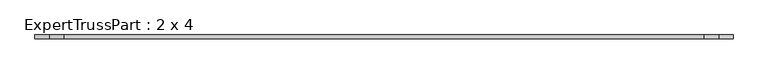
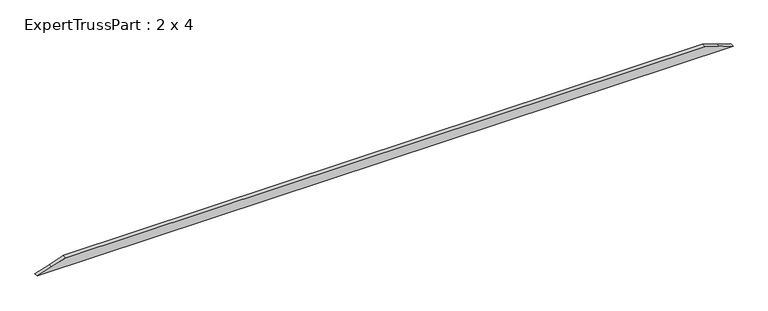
"""IFC4 building model written with IfcOpenShell, lengths in millimetres: beam geometry, ExpertTrussPart : 2 x 4."""

from ifc_helpers import new_model, si_unit, frame, origin, place, context, project, spatial, polyline, outline, extrude, source, transform, mapped, element, save


def experttrusspart_2_x_4_5d1fd198(model_context):
    return source(origin(), model_context, "Body", "SweptSolid", [
        extrude(outline(polyline([(88.9, -3050.0718577), (44.45, -3186.2590918), (0.0, -3322.4463258), (0.0, 3322.4463258), (44.45, 3186.2590918), (88.9, 3050.0718577), (88.9, -3050.0718577)])), frame((0.0, -19.05, 0.0), z_axis=(0.0, 1.0, 0.0), x_axis=(0.0, 0.0, 1.0)), (0.0, 0.0, 1.0), 38.1),
    ])


if __name__ == "__main__":
    model = new_model("IFC4")
    model_context = context("Model", 3, world=origin())
    ifc_project = project(units=[si_unit("LENGTHUNIT", "METRE", prefix="MILLI")], contexts=[model_context])
    site = spatial("IfcSite", under=ifc_project)
    building = spatial("IfcBuilding", under=site)
    placement = place(None, origin())
    experttrusspart_2_x_4_shape = experttrusspart_2_x_4_5d1fd198(model_context)
    element("IfcBeam", 1, ObjectType="ExpertTrussPart : 2 x 4", at=placement, inside=building, context=model_context, shape_type="MappedRepresentation", body=[
        mapped(experttrusspart_2_x_4_shape, transform((0.0, 0.0, 0.0), x_axis=(1.0, 0.0, 0.0), y_axis=(0.0, 1.0, 0.0), z_axis=(0.0, 0.0, 1.0))),
    ])
    save(model, "model.ifc")
